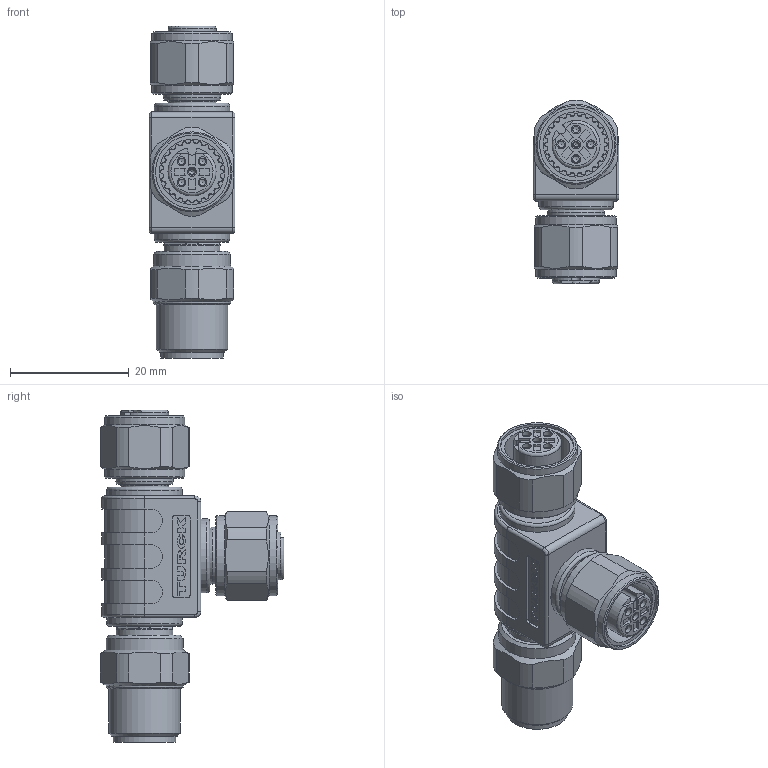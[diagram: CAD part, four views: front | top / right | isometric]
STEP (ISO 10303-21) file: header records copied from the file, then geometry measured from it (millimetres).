
FILE_DESCRIPTION((''),'2;1');
FILE_NAME('C:\TurckZip\RSCV_2RKCV_57.stp','2009-07-10T10:32:29',('IKOROL'),(''),'Autodesk Inventor 2009','Autodesk Inventor 2009','');
FILE_SCHEMA(('CONFIG_CONTROL_DESIGN'));
Length unit declared in the file: millimetre
Products named in the file (1): Part1
Bounding box: 14.5 x 30.99 x 56 mm (x, y, z)
Volume: 9396 mm3; surface area: 8650.7 mm2
Topology: 1 solids, 39 shells, 1313 faces, 3566 edges, 2267 vertices
Faces by surface type: cylinder 640, plane 516, bspline 84, cone 58, torus 15
Full cylindrical faces by diameter (mm): 1 x10, 1.1 x18, 1.3 x20, 1.4 x10, 1.5 x10, 1.6 x18, 1.7 x30, 2 x1, 8.1 x1, 8.3 x1, 9.6 x1, 9.7 x2, 9.8 x2, 9.9 x1, 10 x1, 10.5 x1, 10.7 x1, 11 x2, 12 x1, 12.3 x2, 12.5 x1, 12.7 x2, 13 x2, 13.5 x4
Entity records: 43461 total; most frequent: CARTESIAN_POINT 9351, DIRECTION 7336, ORIENTED_EDGE 6494, EDGE_CURVE 3247, AXIS2_PLACEMENT_3D 3053, VERTEX_POINT 2170, CIRCLE 1823, EDGE_LOOP 1651
